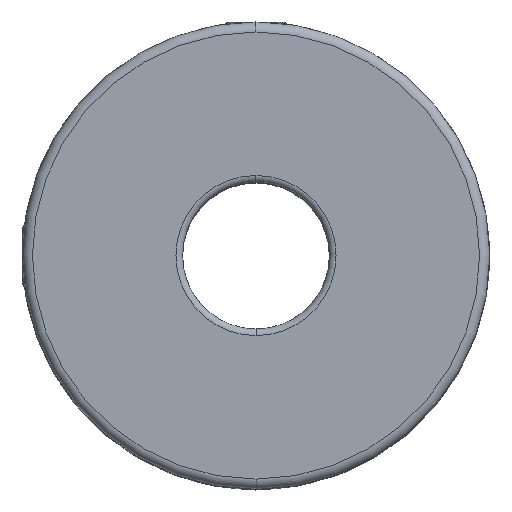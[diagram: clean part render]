
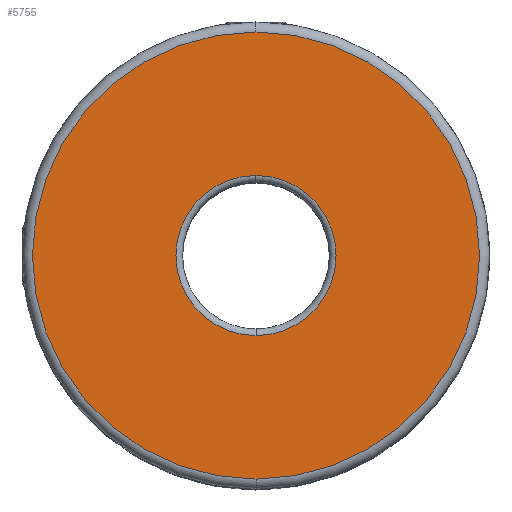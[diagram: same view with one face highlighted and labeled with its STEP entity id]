
A CAD part, top view. The second image highlights one B-rep face of the part: STEP entity #5755.
In plain terms, the highlighted planar face has unit normal (0, 0, 1).
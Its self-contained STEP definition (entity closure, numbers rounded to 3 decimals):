
#68 = CARTESIAN_POINT ( 'NONE',  ( -1.172, 37.174, 62.541 ) ) ;
#240 = EDGE_CURVE ( 'NONE', #4931, #3815, #1252, .T. ) ;
#296 = EDGE_CURVE ( 'NONE', #3815, #4931, #3354, .T. ) ;
#368 = AXIS2_PLACEMENT_3D ( 'NONE', #2577, #5842, #3043 ) ;
#408 = DIRECTION ( 'NONE',  ( 0., -1., 0. ) ) ;
#478 = DIRECTION ( 'NONE',  ( 0., -1., 0. ) ) ;
#525 = AXIS2_PLACEMENT_3D ( 'NONE', #5997, #3186, #408 ) ;
#602 = CARTESIAN_POINT ( 'NONE',  ( -1.172, 3.674, 62.541 ) ) ;
#1080 = DIRECTION ( 'NONE',  ( 0., -1., 0. ) ) ;
#1252 = CIRCLE ( 'NONE', #1739, 33.5 ) ;
#1357 = VERTEX_POINT ( 'NONE', #2379 ) ;
#1739 = AXIS2_PLACEMENT_3D ( 'NONE', #4658, #3733, #478 ) ;
#1857 = EDGE_LOOP ( 'NONE', ( #4859, #2742 ) ) ;
#2379 = CARTESIAN_POINT ( 'NONE',  ( -1.172, 15.674, 62.541 ) ) ;
#2577 = CARTESIAN_POINT ( 'NONE',  ( -1.172, 3.674, 62.541 ) ) ;
#2642 = FACE_BOUND ( 'NONE', #3100, .T. ) ;
#2698 = CARTESIAN_POINT ( 'NONE',  ( -1.172, 3.674, 62.541 ) ) ;
#2739 = ORIENTED_EDGE ( 'NONE', *, *, #5200, .T. ) ;
#2742 = ORIENTED_EDGE ( 'NONE', *, *, #240, .T. ) ;
#2909 = PLANE ( 'NONE',  #3690 ) ;
#3001 = CARTESIAN_POINT ( 'NONE',  ( -1.172, -29.826, 62.541 ) ) ;
#3043 = DIRECTION ( 'NONE',  ( 0., -1., 0. ) ) ;
#3100 = EDGE_LOOP ( 'NONE', ( #4572, #2739 ) ) ;
#3186 = DIRECTION ( 'NONE',  ( 0., 0., -1. ) ) ;
#3218 = VERTEX_POINT ( 'NONE', #5581 ) ;
#3239 = CIRCLE ( 'NONE', #368, 12. ) ;
#3354 = CIRCLE ( 'NONE', #5446, 33.5 ) ;
#3656 = DIRECTION ( 'NONE',  ( 0., 0., 1. ) ) ;
#3690 = AXIS2_PLACEMENT_3D ( 'NONE', #602, #3853, #1080 ) ;
#3733 = DIRECTION ( 'NONE',  ( 0., 0., 1. ) ) ;
#3815 = VERTEX_POINT ( 'NONE', #3001 ) ;
#3853 = DIRECTION ( 'NONE',  ( 0., 0., -1. ) ) ;
#4151 = EDGE_CURVE ( 'NONE', #3218, #1357, #4606, .T. ) ;
#4572 = ORIENTED_EDGE ( 'NONE', *, *, #4151, .T. ) ;
#4606 = CIRCLE ( 'NONE', #525, 12. ) ;
#4658 = CARTESIAN_POINT ( 'NONE',  ( -1.172, 3.674, 62.541 ) ) ;
#4859 = ORIENTED_EDGE ( 'NONE', *, *, #296, .T. ) ;
#4931 = VERTEX_POINT ( 'NONE', #68 ) ;
#5013 = DIRECTION ( 'NONE',  ( 0., -1., 0. ) ) ;
#5200 = EDGE_CURVE ( 'NONE', #1357, #3218, #3239, .T. ) ;
#5446 = AXIS2_PLACEMENT_3D ( 'NONE', #2698, #3656, #5013 ) ;
#5581 = CARTESIAN_POINT ( 'NONE',  ( -1.172, -8.326, 62.541 ) ) ;
#5755 = ADVANCED_FACE ( 'NONE', ( #2642, #5793 ), #2909, .F. ) ;
#5793 = FACE_OUTER_BOUND ( 'NONE', #1857, .T. ) ;
#5842 = DIRECTION ( 'NONE',  ( 0., 0., -1. ) ) ;
#5997 = CARTESIAN_POINT ( 'NONE',  ( -1.172, 3.674, 62.541 ) ) ;
